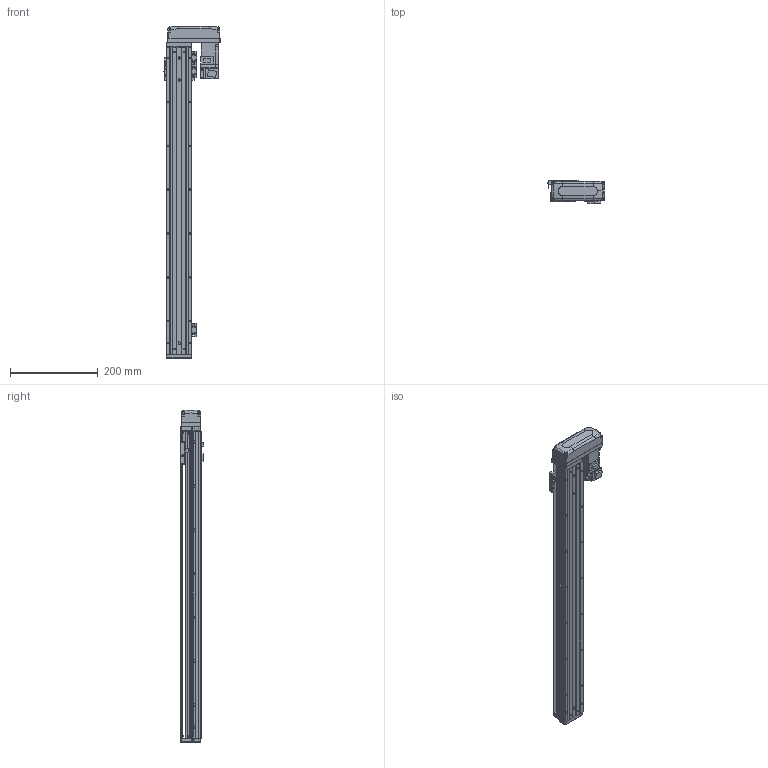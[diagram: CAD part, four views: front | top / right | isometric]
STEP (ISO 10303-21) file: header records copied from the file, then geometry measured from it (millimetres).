
FILE_DESCRIPTION (( 'STEP AP203' ), '1' );
FILE_NAME ('KTHA50-600-BL-M10-C4L.step', '2022-03-19T07:07:16', ( '微软用户' ), ( '微软中国' ), 'SwSTEP 2.0', 'SolidWorks 2020', '' );
FILE_SCHEMA (( 'CONFIG_CONTROL_DESIGN' ));
Length unit declared in the file: millimetre
Products named in the file (18): CTHA60-016; KTHA50-600-BL-M10-C4L; GB¨uT 70.2-M3¡Á6_M3¡Á6; CTHA60-021; EE_SX911P_R; GBT 70.3-M3℅6; GBT77-2000 M3×3; HG-KR13（三菱）; KTHA50-001_700; GBT 70.1-M3℅6; CTHA50-015-2_CTHA60-015-2; KTHA50-002; CTHA60-017; CTHA60-033; KTHA50-004; GBT 70.1-M4×12; GBT 70.1-M3×15; KTHA50-005
Assembly tree (53 placements, depth 2):
  KTHA50-600-BL-M10-C4L
    KTHA50-001_700
    KTHA50-002
    KTHA50-004
    KTHA50-005
    GB¨uT 70.2-M3¡Á6_M3¡Á6  x6
    EE_SX911P_R  x3
    GBT77-2000 M3×3  x6
    GBT 70.1-M3℅6  x6
    CTHA60-017  x3
    GBT 70.1-M4×12  x10
    CTHA60-016  x2
    CTHA60-021  x2
    GBT 70.3-M3℅6  x4
    HG-KR13（三菱）
    CTHA50-015-2_CTHA60-015-2
    CTHA60-033
    GBT 70.1-M3×15  x4
Bounding box: 128.4 x 53.3 x 757 mm (x, y, z)
Volume: 1501064.1 mm3; surface area: 367577.2 mm2
Topology: 56 solids, 56 shells, 2303 faces, 5463 edges, 3352 vertices
Faces by surface type: plane 1288, cylinder 562, cone 311, torus 100, bspline 26, sphere 16
Entity records: 39527 total; most frequent: CARTESIAN_POINT 7458, DIRECTION 6185, ORIENTED_EDGE 5938, EDGE_CURVE 2969, AXIS2_PLACEMENT_3D 2095, VECTOR 1995, LINE 1995, VERTEX_POINT 1866
